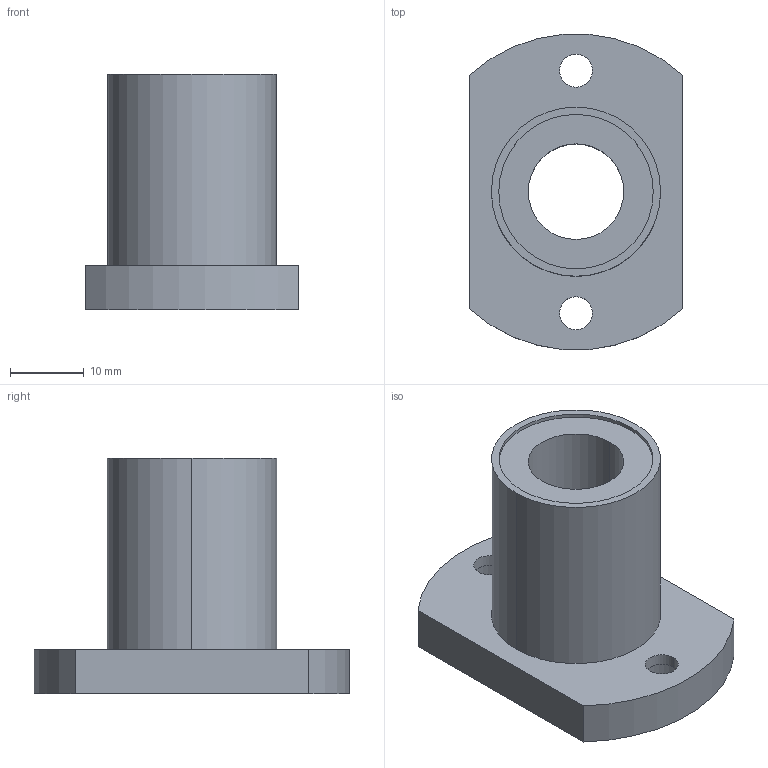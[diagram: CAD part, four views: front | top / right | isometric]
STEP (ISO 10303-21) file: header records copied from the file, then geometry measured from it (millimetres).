
FILE_DESCRIPTION((''),'2;1');
FILE_NAME('C:\Documents and Settings\ｿﾀﾀ蠑ｷ1\ｹﾙﾅﾁ ﾈｭｸ饅\ｺﾎﾇｰﾆﾄﾀﾏ\ﾁｦﾇｰ\LMH__UU\LMH13UU.stp','2005-06-15T10:35:33',('ｿﾀﾀ蠑ｷ1'),(''),'Autodesk Inventor 9','Autodesk Inventor 9','');
FILE_SCHEMA(('AUTOMOTIVE_DESIGN { 1 0 10303 214 1 1 1 1 }'));
Length unit declared in the file: millimetre
Products named in the file (1): LMH__
Bounding box: 29 x 42.85 x 32 mm (x, y, z)
Volume: 12574.7 mm3; surface area: 6215.9 mm2
Topology: 1 solids, 1 shells, 30 faces, 66 edges, 44 vertices
Faces by surface type: cylinder 12, bspline 10, plane 8
Entity records: 989 total; most frequent: CARTESIAN_POINT 283, DIRECTION 148, ORIENTED_EDGE 132, EDGE_CURVE 66, AXIS2_PLACEMENT_3D 61, VERTEX_POINT 44, EDGE_LOOP 42, CIRCLE 40
